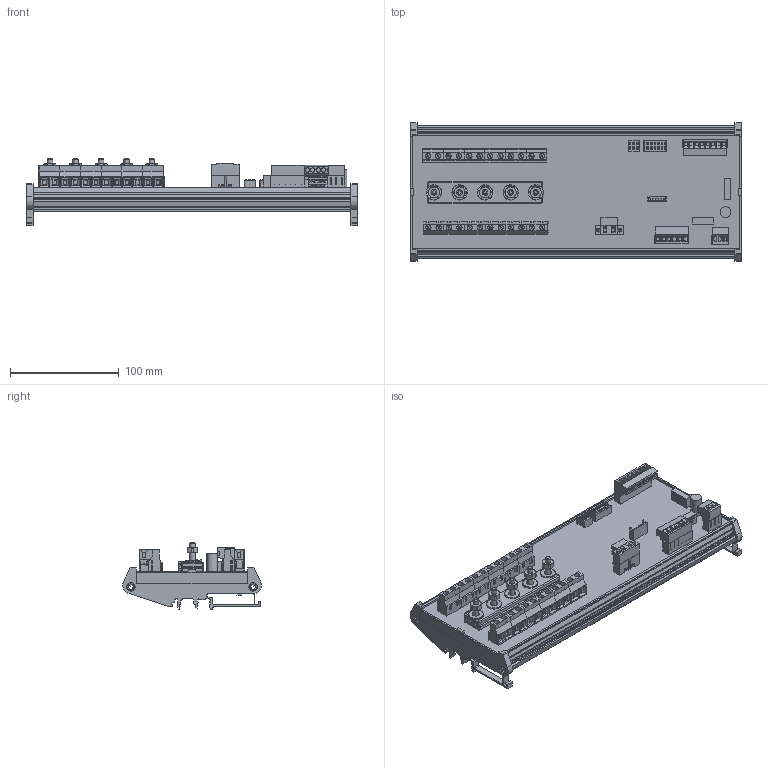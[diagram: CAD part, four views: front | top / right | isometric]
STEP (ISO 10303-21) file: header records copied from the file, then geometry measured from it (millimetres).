
FILE_DESCRIPTION(('FreeCAD Model'),'2;1');
FILE_NAME('C:/3D Files/Stringhe/ST0N/ST0N2415/ST0N2415.step', '2021-01-27T15:26:56',('Author'),(''), 'Open CASCADE STEP processor 7.2','FreeCAD','Unknown');
FILE_SCHEMA(('AUTOMOTIVE_DESIGN { 1 0 10303 214 1 1 1 1 }'));
Length unit declared in the file: millimetre
Products named in the file (47): ST0N2415; Mstb_3P_F; Mstb_6P_F; Mstb_3Pc_M; Mstb_6Pc_M; AmpModu_6P_M; DipSwitch8; DipSwitch4; Dado6MA003; Dado6MA004; Dado6MA005; Dado6MA006; Rondella6; Rondella007; Rondella008; Rondella009; CN3_M; CN3_F; IB2405LS-1W; ELNA_470_uF_35_V; VTBSE-6x35; VTBSE-6x031; VTBSE-6x032; VTBSE-6x033; Mstb_8P_F; Mstb_8Pc_M; IB2405LS-1W001; Stampato_300x108; Barra_105_mm; Barra_105_mm001; Barra_105_mm002; Dado6MA007; Rondella010; VTBSE-6x034; CH_01-02; CH_03-04; CH_05-06; CH_07-08; CH_09-10; CH_11-12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
Assembly tree (46 placements, depth 2):
  ST0N2415
    Mstb_3P_F
    Mstb_6P_F
    Mstb_3Pc_M
    Mstb_6Pc_M
    AmpModu_6P_M
    DipSwitch8
    DipSwitch4
    Dado6MA003
    Dado6MA004
    Dado6MA005
    Dado6MA006
    Rondella6
    Rondella007
    Rondella008
    Rondella009
    CN3_M
    CN3_F
    IB2405LS-1W
    ELNA_470_uF_35_V
    VTBSE-6x35
    VTBSE-6x031
    VTBSE-6x032
    VTBSE-6x033
    Mstb_8P_F
    Mstb_8Pc_M
    IB2405LS-1W001
    Stampato_300x108
    Barra_105_mm
    Barra_105_mm001
    Barra_105_mm002
    Dado6MA007
    Rondella010
    VTBSE-6x034
    CH_01-02
    CH_03-04
    CH_05-06
    CH_07-08
    CH_09-10
    CH_11-12
    CH_13-14
    CH_15-16
    CH_17-18
    CH_19-20
    CH_21-22
    CH_23-24
    Profilo_304x128
Bounding box: 304 x 127.59 x 62.29 mm (x, y, z)
Volume: 274336.4 mm3; surface area: 304030.4 mm2
Topology: 76 solids, 136 shells, 4974 faces, 19737 edges, 35678 vertices
Faces by surface type: plane 3968, cylinder 644, bspline 136, cone 135, torus 57, sphere 32, extrusion 2
Full cylindrical faces by diameter (mm): 0.5 x8, 0.75 x36, 1 x2, 1.5 x17, 1.6 x2, 1.8 x2, 2.05 x2, 2.5 x2, 2.6 x24, 3.3 x2, 3.5 x2, 3.8 x2, 4 x21, 4.3 x4, 4.7 x24, 4.917 x5, 5 x34, 6.6 x5, 7 x15, 7.9 x4, 9.202 x4, 10 x6, 14 x5
Entity records: 431384 total; most frequent: CARTESIAN_POINT 101650, DIRECTION 54256, VECTOR 37433, LINE 37431, ORIENTED_EDGE 26336, PCURVE 26336, DEFINITIONAL_REPRESENTATION 26336, EDGE_CURVE 13481
